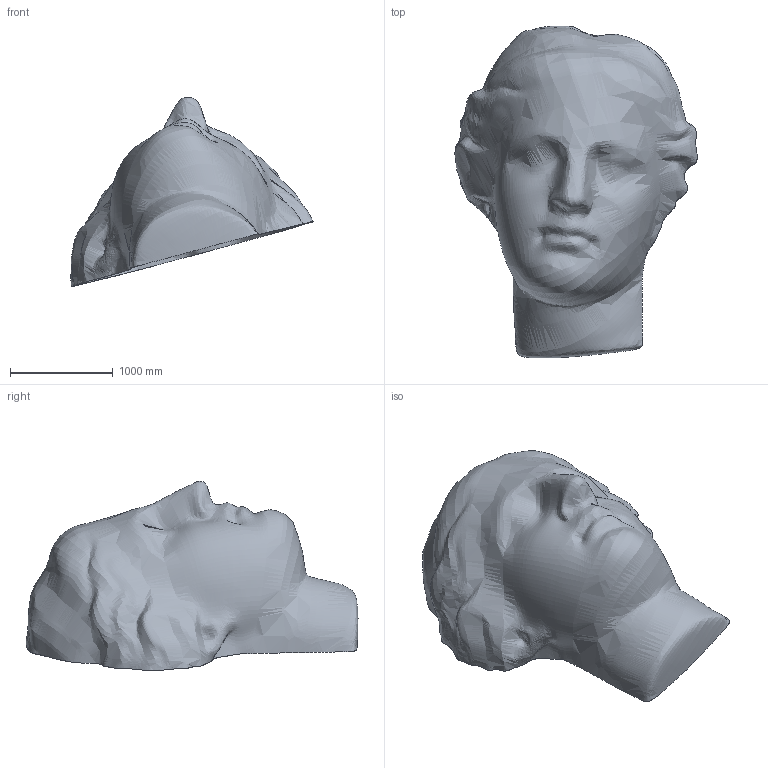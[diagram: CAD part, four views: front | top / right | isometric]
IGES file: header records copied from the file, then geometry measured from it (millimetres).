
Global section: file name: D:\RhinoResurf(v1.01)\multi_surface\vesus_; native system: Rhinoceros ( Oct 17 2007 ); preprocessor: Trout Lake IGES 012 Oct 17 2007; date: 071213.013457; units: centimetre
Bounding box: 2354.49 x 3224.82 x 1839.95 mm (x, y, z)
Surface area: 11678299.1 mm2 (no closed solid volume)
Topology: 0 solids, 0 shells, 1 faces, 967 edges, 967 vertices
Faces by surface type: bspline 1
